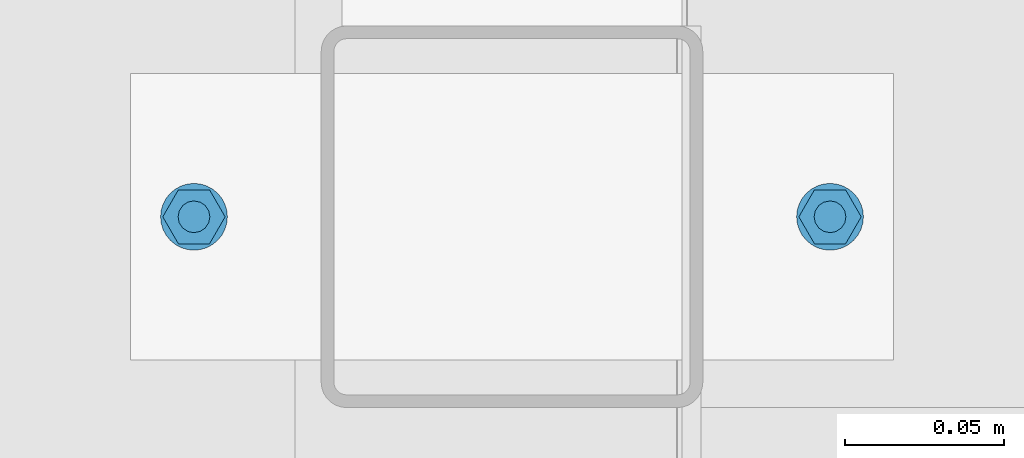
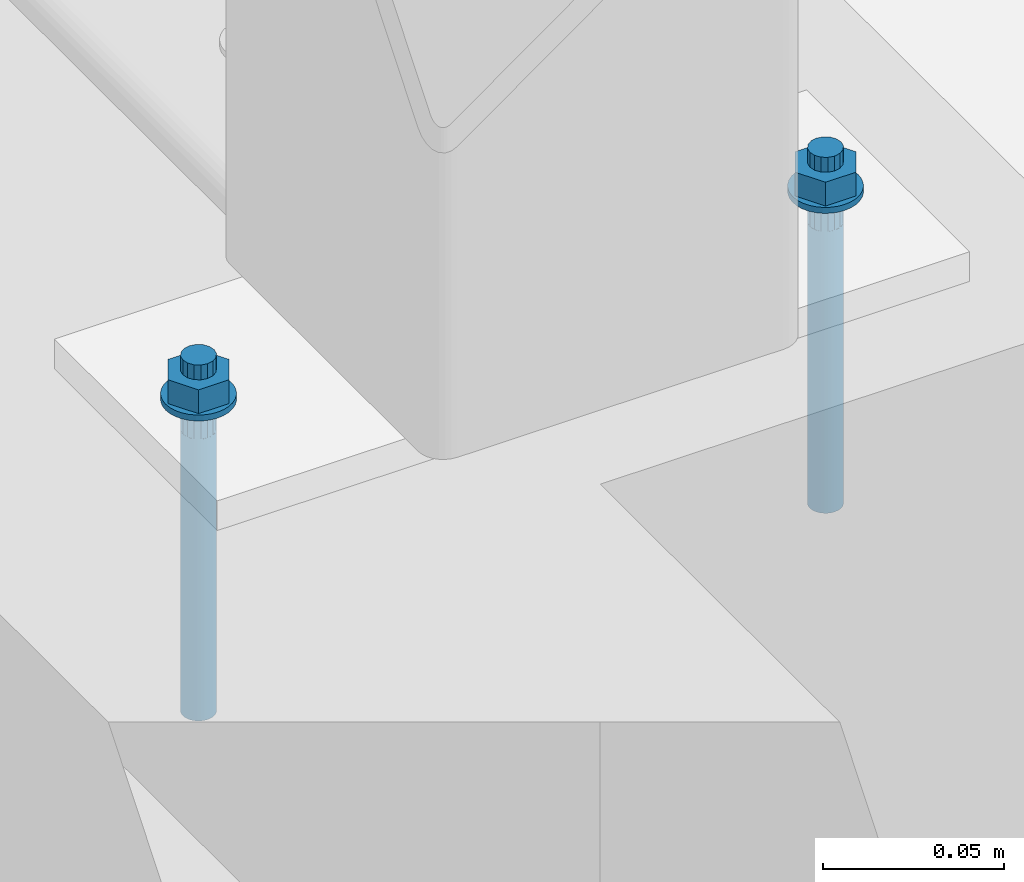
# One storey, part 255 of 476: 1 mechanical fastener.
"""IFC2X3 building model written with IfcOpenShell, lengths in millimetres."""

from ifc_helpers import new_model, entity, si_unit, converted_unit, origin_with_axes, place, context, project, spatial, faceted_brep, element, save


model = new_model("IFC2X3")

# Units and contexts
model_context = context("Model", 3, precision=1e-09, world=origin_with_axes())
ifc_project = project(units=[si_unit("LENGTHUNIT", "METRE", prefix="MILLI"), si_unit("AREAUNIT", "SQUARE_METRE"), si_unit("VOLUMEUNIT", "CUBIC_METRE"), converted_unit("PLANEANGLEUNIT", "DEGREE", entity("IfcPlaneAngleMeasure", 0.01745329), si_unit("PLANEANGLEUNIT", "RADIAN"), dimensions=[0, 0, 0, 0, 0, 0, 0])], contexts=[model_context])

# Site, building, storey
site_placement = place(None, origin_with_axes())
site = spatial("IfcSite", under=ifc_project, at=site_placement, Name="mKR Teilneubau & Sanierung BA1 - Ostfildern", CompositionType="ELEMENT")
building_placement = place(site_placement, origin_with_axes())
building = spatial("IfcBuilding", under=site, at=building_placement, Name="Struktur 1", CompositionType="ELEMENT")
storey_placement = place(building_placement, origin_with_axes())
storey = spatial("IfcBuildingStorey", under=building, at=storey_placement, Name="Default Storey", CompositionType="ELEMENT", Elevation=0.0)

# Mechanical fastener
mechanical_fastener_placement = place(None, origin_with_axes())
element("IfcMechanicalFastener", 1, at=mechanical_fastener_placement, inside=storey, ObjectType="Anchor_Bolt#1", NominalDiameter=10.0, NominalLength=120.0, context=model_context, shape_type="Brep", body=[
    faceted_brep([(22072.108734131, -148.602759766, 527.0), (22072.108734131, -148.602759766, 525.0), (22070.06028575, -148.804514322, 525.0), (22070.06028575, -148.804514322, 527.0), (22068.090558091, -149.402024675, 525.0), (22068.090558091, -149.402024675, 527.0), (22066.275246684, -150.372328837, 525.0), (22066.275246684, -150.372328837, 527.0), (22064.684112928, -151.678138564, 525.0), (22064.684112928, -151.678138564, 527.0), (22063.378303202, -153.269272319, 525.0), (22063.378303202, -153.269272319, 527.0), (22062.407999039, -155.084583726, 525.0), (22062.407999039, -155.084583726, 527.0), (22061.810488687, -157.054311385, 525.0), (22061.810488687, -157.054311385, 527.0), (22061.608734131, -159.102759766, 525.0), (22061.608734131, -159.102759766, 527.0), (22061.810488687, -161.151208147, 525.0), (22061.810488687, -161.151208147, 527.0), (22062.407999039, -163.120935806, 525.0), (22062.407999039, -163.120935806, 527.0), (22063.378303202, -164.936247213, 525.0), (22063.378303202, -164.936247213, 527.0), (22064.684112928, -166.527380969, 525.0), (22064.684112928, -166.527380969, 527.0), (22066.275246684, -167.833190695, 525.0), (22066.275246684, -167.833190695, 527.0), (22068.090558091, -168.803494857, 525.0), (22068.090558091, -168.803494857, 527.0), (22070.06028575, -169.40100521, 525.0), (22070.06028575, -169.40100521, 527.0), (22072.108734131, -169.602759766, 525.0), (22072.108734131, -169.602759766, 527.0), (22074.157182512, -169.40100521, 525.0), (22074.157182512, -169.40100521, 527.0), (22076.126910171, -168.803494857, 525.0), (22076.126910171, -168.803494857, 527.0), (22077.942221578, -167.833190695, 525.0), (22077.942221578, -167.833190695, 527.0), (22079.533355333, -166.527380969, 525.0), (22079.533355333, -166.527380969, 527.0), (22080.83916506, -164.936247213, 525.0), (22080.83916506, -164.936247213, 527.0), (22081.809469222, -163.120935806, 525.0), (22081.809469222, -163.120935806, 527.0), (22082.406979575, -161.151208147, 525.0), (22082.406979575, -161.151208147, 527.0), (22082.608734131, -159.102759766, 525.0), (22082.608734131, -159.102759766, 527.0), (22082.406979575, -157.054311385, 525.0), (22082.406979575, -157.054311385, 527.0), (22081.809469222, -155.084583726, 525.0), (22081.809469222, -155.084583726, 527.0), (22080.83916506, -153.269272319, 525.0), (22080.83916506, -153.269272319, 527.0), (22079.533355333, -151.678138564, 525.0), (22079.533355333, -151.678138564, 527.0), (22077.942221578, -150.372328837, 525.0), (22077.942221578, -150.372328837, 527.0), (22076.126910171, -149.402024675, 525.0), (22076.126910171, -149.402024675, 527.0), (22074.157182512, -148.804514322, 525.0), (22074.157182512, -148.804514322, 527.0)], [[[0, 1, 2, 3]], [[3, 2, 4, 5]], [[5, 4, 6, 7]], [[7, 6, 8, 9]], [[9, 8, 10, 11]], [[11, 10, 12, 13]], [[13, 12, 14, 15]], [[15, 14, 16, 17]], [[17, 16, 18, 19]], [[19, 18, 20, 21]], [[21, 20, 22, 23]], [[23, 22, 24, 25]], [[25, 24, 26, 27]], [[27, 26, 28, 29]], [[29, 28, 30, 31]], [[31, 30, 32, 33]], [[33, 32, 34, 35]], [[35, 34, 36, 37]], [[37, 36, 38, 39]], [[39, 38, 40, 41]], [[41, 40, 42, 43]], [[43, 42, 44, 45]], [[45, 44, 46, 47]], [[47, 46, 48, 49]], [[49, 48, 50, 51]], [[51, 50, 52, 53]], [[53, 52, 54, 55]], [[55, 54, 56, 57]], [[57, 56, 58, 59]], [[59, 58, 60, 61]], [[61, 60, 62, 63]], [[63, 62, 1, 0]], [[0, 3, 5, 7, 9, 11, 13, 15, 17, 19, 21, 23, 25, 27, 29, 31, 33, 35, 37, 39, 41, 43, 45, 47, 49, 51, 53, 55, 57, 59, 61, 63]], [[1, 62, 60, 58, 56, 54, 52, 50, 48, 46, 44, 42, 40, 38, 36, 34, 32, 30, 28, 26, 24, 22, 20, 18, 16, 14, 12, 10, 8, 6, 4, 2]]]),
    faceted_brep([(21872.108734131, -148.602759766, 527.0), (21872.108734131, -148.602759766, 525.0), (21870.06028575, -148.804514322, 525.0), (21870.06028575, -148.804514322, 527.0), (21868.090558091, -149.402024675, 525.0), (21868.090558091, -149.402024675, 527.0), (21866.275246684, -150.372328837, 525.0), (21866.275246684, -150.372328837, 527.0), (21864.684112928, -151.678138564, 525.0), (21864.684112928, -151.678138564, 527.0), (21863.378303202, -153.269272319, 525.0), (21863.378303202, -153.269272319, 527.0), (21862.407999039, -155.084583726, 525.0), (21862.407999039, -155.084583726, 527.0), (21861.810488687, -157.054311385, 525.0), (21861.810488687, -157.054311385, 527.0), (21861.608734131, -159.102759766, 525.0), (21861.608734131, -159.102759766, 527.0), (21861.810488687, -161.151208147, 525.0), (21861.810488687, -161.151208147, 527.0), (21862.407999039, -163.120935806, 525.0), (21862.407999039, -163.120935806, 527.0), (21863.378303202, -164.936247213, 525.0), (21863.378303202, -164.936247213, 527.0), (21864.684112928, -166.527380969, 525.0), (21864.684112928, -166.527380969, 527.0), (21866.275246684, -167.833190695, 525.0), (21866.275246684, -167.833190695, 527.0), (21868.090558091, -168.803494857, 525.0), (21868.090558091, -168.803494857, 527.0), (21870.06028575, -169.40100521, 525.0), (21870.06028575, -169.40100521, 527.0), (21872.108734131, -169.602759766, 525.0), (21872.108734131, -169.602759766, 527.0), (21874.157182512, -169.40100521, 525.0), (21874.157182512, -169.40100521, 527.0), (21876.126910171, -168.803494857, 525.0), (21876.126910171, -168.803494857, 527.0), (21877.942221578, -167.833190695, 525.0), (21877.942221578, -167.833190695, 527.0), (21879.533355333, -166.527380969, 525.0), (21879.533355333, -166.527380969, 527.0), (21880.83916506, -164.936247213, 525.0), (21880.83916506, -164.936247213, 527.0), (21881.809469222, -163.120935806, 525.0), (21881.809469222, -163.120935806, 527.0), (21882.406979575, -161.151208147, 525.0), (21882.406979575, -161.151208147, 527.0), (21882.608734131, -159.102759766, 525.0), (21882.608734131, -159.102759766, 527.0), (21882.406979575, -157.054311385, 525.0), (21882.406979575, -157.054311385, 527.0), (21881.809469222, -155.084583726, 525.0), (21881.809469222, -155.084583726, 527.0), (21880.83916506, -153.269272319, 525.0), (21880.83916506, -153.269272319, 527.0), (21879.533355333, -151.678138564, 525.0), (21879.533355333, -151.678138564, 527.0), (21877.942221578, -150.372328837, 525.0), (21877.942221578, -150.372328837, 527.0), (21876.126910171, -149.402024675, 525.0), (21876.126910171, -149.402024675, 527.0), (21874.157182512, -148.804514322, 525.0), (21874.157182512, -148.804514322, 527.0)], [[[0, 1, 2, 3]], [[3, 2, 4, 5]], [[5, 4, 6, 7]], [[7, 6, 8, 9]], [[9, 8, 10, 11]], [[11, 10, 12, 13]], [[13, 12, 14, 15]], [[15, 14, 16, 17]], [[17, 16, 18, 19]], [[19, 18, 20, 21]], [[21, 20, 22, 23]], [[23, 22, 24, 25]], [[25, 24, 26, 27]], [[27, 26, 28, 29]], [[29, 28, 30, 31]], [[31, 30, 32, 33]], [[33, 32, 34, 35]], [[35, 34, 36, 37]], [[37, 36, 38, 39]], [[39, 38, 40, 41]], [[41, 40, 42, 43]], [[43, 42, 44, 45]], [[45, 44, 46, 47]], [[47, 46, 48, 49]], [[49, 48, 50, 51]], [[51, 50, 52, 53]], [[53, 52, 54, 55]], [[55, 54, 56, 57]], [[57, 56, 58, 59]], [[59, 58, 60, 61]], [[61, 60, 62, 63]], [[63, 62, 1, 0]], [[0, 3, 5, 7, 9, 11, 13, 15, 17, 19, 21, 23, 25, 27, 29, 31, 33, 35, 37, 39, 41, 43, 45, 47, 49, 51, 53, 55, 57, 59, 61, 63]], [[1, 62, 60, 58, 56, 54, 52, 50, 48, 46, 44, 42, 40, 38, 36, 34, 32, 30, 28, 26, 24, 22, 20, 18, 16, 14, 12, 10, 8, 6, 4, 2]]]),
    faceted_brep([(22067.208734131, -167.589808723, 527.0), (22067.208734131, -167.589808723, 535.0), (22062.308734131, -159.102759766, 535.0), (22062.308734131, -159.102759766, 527.0), (22067.208734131, -150.615710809, 535.0), (22067.208734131, -150.615710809, 527.0), (22077.008734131, -150.615710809, 535.0), (22077.008734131, -150.615710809, 527.0), (22081.908734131, -159.102759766, 535.0), (22081.908734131, -159.102759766, 527.0), (22077.008734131, -167.589808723, 535.0), (22077.008734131, -167.589808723, 527.0)], [[[0, 1, 2, 3]], [[3, 2, 4, 5]], [[5, 4, 6, 7]], [[7, 6, 8, 9]], [[9, 8, 10, 11]], [[11, 10, 1, 0]], [[4, 2, 1, 10, 8, 6]], [[0, 3, 5, 7, 9, 11]]]),
    faceted_brep([(21867.208734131, -167.589808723, 527.0), (21867.208734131, -167.589808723, 535.0), (21862.308734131, -159.102759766, 535.0), (21862.308734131, -159.102759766, 527.0), (21867.208734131, -150.615710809, 535.0), (21867.208734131, -150.615710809, 527.0), (21877.008734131, -150.615710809, 535.0), (21877.008734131, -150.615710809, 527.0), (21881.908734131, -159.102759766, 535.0), (21881.908734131, -159.102759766, 527.0), (21877.008734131, -167.589808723, 535.0), (21877.008734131, -167.589808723, 527.0)], [[[0, 1, 2, 3]], [[3, 2, 4, 5]], [[5, 4, 6, 7]], [[7, 6, 8, 9]], [[9, 8, 10, 11]], [[11, 10, 1, 0]], [[4, 2, 1, 10, 8, 6]], [[0, 3, 5, 7, 9, 11]]]),
    faceted_brep([(22072.108734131, -154.102759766, 540.0), (22072.108734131, -154.102759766, 535.0), (22070.195316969, -154.483362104, 535.0), (22070.195316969, -154.483362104, 540.0), (22068.573200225, -155.56722586, 535.0), (22068.573200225, -155.56722586, 540.0), (22067.489336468, -157.189342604, 535.0), (22067.489336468, -157.189342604, 540.0), (22067.108734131, -159.102759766, 535.0), (22067.108734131, -159.102759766, 540.0), (22067.489336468, -161.016176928, 535.0), (22067.489336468, -161.016176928, 540.0), (22068.573200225, -162.638293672, 535.0), (22068.573200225, -162.638293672, 540.0), (22070.195316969, -163.722157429, 535.0), (22070.195316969, -163.722157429, 540.0), (22072.108734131, -164.102759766, 535.0), (22072.108734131, -164.102759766, 540.0), (22074.022151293, -163.722157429, 535.0), (22074.022151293, -163.722157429, 540.0), (22075.644268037, -162.638293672, 535.0), (22075.644268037, -162.638293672, 540.0), (22076.728131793, -161.016176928, 535.0), (22076.728131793, -161.016176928, 540.0), (22077.108734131, -159.102759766, 535.0), (22077.108734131, -159.102759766, 540.0), (22076.728131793, -157.189342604, 535.0), (22076.728131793, -157.189342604, 540.0), (22075.644268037, -155.56722586, 535.0), (22075.644268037, -155.56722586, 540.0), (22074.022151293, -154.483362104, 535.0), (22074.022151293, -154.483362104, 540.0)], [[[0, 1, 2, 3]], [[3, 2, 4, 5]], [[5, 4, 6, 7]], [[7, 6, 8, 9]], [[9, 8, 10, 11]], [[11, 10, 12, 13]], [[13, 12, 14, 15]], [[15, 14, 16, 17]], [[17, 16, 18, 19]], [[19, 18, 20, 21]], [[21, 20, 22, 23]], [[23, 22, 24, 25]], [[25, 24, 26, 27]], [[27, 26, 28, 29]], [[29, 28, 30, 31]], [[31, 30, 1, 0]], [[0, 3, 5, 7, 9, 11, 13, 15, 17, 19, 21, 23, 25, 27, 29, 31]], [[1, 30, 28, 26, 24, 22, 20, 18, 16, 14, 12, 10, 8, 6, 4, 2]]]),
    faceted_brep([(21872.108734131, -154.102759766, 540.0), (21872.108734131, -154.102759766, 535.0), (21870.195316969, -154.483362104, 535.0), (21870.195316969, -154.483362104, 540.0), (21868.573200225, -155.56722586, 535.0), (21868.573200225, -155.56722586, 540.0), (21867.489336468, -157.189342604, 535.0), (21867.489336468, -157.189342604, 540.0), (21867.108734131, -159.102759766, 535.0), (21867.108734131, -159.102759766, 540.0), (21867.489336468, -161.016176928, 535.0), (21867.489336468, -161.016176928, 540.0), (21868.573200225, -162.638293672, 535.0), (21868.573200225, -162.638293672, 540.0), (21870.195316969, -163.722157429, 535.0), (21870.195316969, -163.722157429, 540.0), (21872.108734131, -164.102759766, 535.0), (21872.108734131, -164.102759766, 540.0), (21874.022151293, -163.722157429, 535.0), (21874.022151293, -163.722157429, 540.0), (21875.644268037, -162.638293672, 535.0), (21875.644268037, -162.638293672, 540.0), (21876.728131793, -161.016176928, 535.0), (21876.728131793, -161.016176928, 540.0), (21877.108734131, -159.102759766, 535.0), (21877.108734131, -159.102759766, 540.0), (21876.728131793, -157.189342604, 535.0), (21876.728131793, -157.189342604, 540.0), (21875.644268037, -155.56722586, 535.0), (21875.644268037, -155.56722586, 540.0), (21874.022151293, -154.483362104, 535.0), (21874.022151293, -154.483362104, 540.0)], [[[0, 1, 2, 3]], [[3, 2, 4, 5]], [[5, 4, 6, 7]], [[7, 6, 8, 9]], [[9, 8, 10, 11]], [[11, 10, 12, 13]], [[13, 12, 14, 15]], [[15, 14, 16, 17]], [[17, 16, 18, 19]], [[19, 18, 20, 21]], [[21, 20, 22, 23]], [[23, 22, 24, 25]], [[25, 24, 26, 27]], [[27, 26, 28, 29]], [[29, 28, 30, 31]], [[31, 30, 1, 0]], [[0, 3, 5, 7, 9, 11, 13, 15, 17, 19, 21, 23, 25, 27, 29, 31]], [[1, 30, 28, 26, 24, 22, 20, 18, 16, 14, 12, 10, 8, 6, 4, 2]]]),
    faceted_brep([(22072.108734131, -154.102759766, 525.0), (22072.108734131, -154.102759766, 515.0), (22070.195316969, -154.483362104, 515.0), (22070.195316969, -154.483362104, 525.0), (22068.573200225, -155.56722586, 515.0), (22068.573200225, -155.56722586, 525.0), (22067.489336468, -157.189342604, 515.0), (22067.489336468, -157.189342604, 525.0), (22067.108734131, -159.102759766, 515.0), (22067.108734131, -159.102759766, 525.0), (22067.489336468, -161.016176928, 515.0), (22067.489336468, -161.016176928, 525.0), (22068.573200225, -162.638293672, 515.0), (22068.573200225, -162.638293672, 525.0), (22070.195316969, -163.722157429, 515.0), (22070.195316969, -163.722157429, 525.0), (22072.108734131, -164.102759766, 515.0), (22072.108734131, -164.102759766, 525.0), (22074.022151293, -163.722157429, 515.0), (22074.022151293, -163.722157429, 525.0), (22075.644268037, -162.638293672, 515.0), (22075.644268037, -162.638293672, 525.0), (22076.728131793, -161.016176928, 515.0), (22076.728131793, -161.016176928, 525.0), (22077.108734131, -159.102759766, 515.0), (22077.108734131, -159.102759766, 525.0), (22076.728131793, -157.189342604, 515.0), (22076.728131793, -157.189342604, 525.0), (22075.644268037, -155.56722586, 515.0), (22075.644268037, -155.56722586, 525.0), (22074.022151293, -154.483362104, 515.0), (22074.022151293, -154.483362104, 525.0)], [[[0, 1, 2, 3]], [[3, 2, 4, 5]], [[5, 4, 6, 7]], [[7, 6, 8, 9]], [[9, 8, 10, 11]], [[11, 10, 12, 13]], [[13, 12, 14, 15]], [[15, 14, 16, 17]], [[17, 16, 18, 19]], [[19, 18, 20, 21]], [[21, 20, 22, 23]], [[23, 22, 24, 25]], [[25, 24, 26, 27]], [[27, 26, 28, 29]], [[29, 28, 30, 31]], [[31, 30, 1, 0]], [[0, 3, 5, 7, 9, 11, 13, 15, 17, 19, 21, 23, 25, 27, 29, 31]], [[1, 30, 28, 26, 24, 22, 20, 18, 16, 14, 12, 10, 8, 6, 4, 2]]]),
    faceted_brep([(21872.108734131, -154.102759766, 525.0), (21872.108734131, -154.102759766, 515.0), (21870.195316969, -154.483362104, 515.0), (21870.195316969, -154.483362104, 525.0), (21868.573200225, -155.56722586, 515.0), (21868.573200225, -155.56722586, 525.0), (21867.489336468, -157.189342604, 515.0), (21867.489336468, -157.189342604, 525.0), (21867.108734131, -159.102759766, 515.0), (21867.108734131, -159.102759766, 525.0), (21867.489336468, -161.016176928, 515.0), (21867.489336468, -161.016176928, 525.0), (21868.573200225, -162.638293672, 515.0), (21868.573200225, -162.638293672, 525.0), (21870.195316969, -163.722157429, 515.0), (21870.195316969, -163.722157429, 525.0), (21872.108734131, -164.102759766, 515.0), (21872.108734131, -164.102759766, 525.0), (21874.022151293, -163.722157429, 515.0), (21874.022151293, -163.722157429, 525.0), (21875.644268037, -162.638293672, 515.0), (21875.644268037, -162.638293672, 525.0), (21876.728131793, -161.016176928, 515.0), (21876.728131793, -161.016176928, 525.0), (21877.108734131, -159.102759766, 515.0), (21877.108734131, -159.102759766, 525.0), (21876.728131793, -157.189342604, 515.0), (21876.728131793, -157.189342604, 525.0), (21875.644268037, -155.56722586, 515.0), (21875.644268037, -155.56722586, 525.0), (21874.022151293, -154.483362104, 515.0), (21874.022151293, -154.483362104, 525.0)], [[[0, 1, 2, 3]], [[3, 2, 4, 5]], [[5, 4, 6, 7]], [[7, 6, 8, 9]], [[9, 8, 10, 11]], [[11, 10, 12, 13]], [[13, 12, 14, 15]], [[15, 14, 16, 17]], [[17, 16, 18, 19]], [[19, 18, 20, 21]], [[21, 20, 22, 23]], [[23, 22, 24, 25]], [[25, 24, 26, 27]], [[27, 26, 28, 29]], [[29, 28, 30, 31]], [[31, 30, 1, 0]], [[0, 3, 5, 7, 9, 11, 13, 15, 17, 19, 21, 23, 25, 27, 29, 31]], [[1, 30, 28, 26, 24, 22, 20, 18, 16, 14, 12, 10, 8, 6, 4, 2]]]),
    faceted_brep([(22072.108734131, -154.102759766, 515.0), (22072.108734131, -154.102759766, 420.0), (22071.133282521, -154.198833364, 420.0), (22071.133282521, -154.198833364, 515.0), (22070.195316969, -154.483362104, 420.0), (22070.195316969, -154.483362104, 515.0), (22069.330882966, -154.945411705, 420.0), (22069.330882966, -154.945411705, 515.0), (22068.573200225, -155.56722586, 420.0), (22068.573200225, -155.56722586, 515.0), (22067.951386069, -156.324908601, 420.0), (22067.951386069, -156.324908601, 515.0), (22067.489336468, -157.189342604, 420.0), (22067.489336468, -157.189342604, 515.0), (22067.204807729, -158.127308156, 420.0), (22067.204807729, -158.127308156, 515.0), (22067.108734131, -159.102759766, 420.0), (22067.108734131, -159.102759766, 515.0), (22067.204807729, -160.078211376, 420.0), (22067.204807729, -160.078211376, 515.0), (22067.489336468, -161.016176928, 420.0), (22067.489336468, -161.016176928, 515.0), (22067.951386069, -161.880610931, 420.0), (22067.951386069, -161.880610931, 515.0), (22068.573200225, -162.638293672, 420.0), (22068.573200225, -162.638293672, 515.0), (22069.330882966, -163.260107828, 420.0), (22069.330882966, -163.260107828, 515.0), (22070.195316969, -163.722157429, 420.0), (22070.195316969, -163.722157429, 515.0), (22071.133282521, -164.006686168, 420.0), (22071.133282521, -164.006686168, 515.0), (22072.108734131, -164.102759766, 420.0), (22072.108734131, -164.102759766, 515.0), (22073.084185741, -164.006686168, 420.0), (22073.084185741, -164.006686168, 515.0), (22074.022151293, -163.722157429, 420.0), (22074.022151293, -163.722157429, 515.0), (22074.886585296, -163.260107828, 420.0), (22074.886585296, -163.260107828, 515.0), (22075.644268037, -162.638293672, 420.0), (22075.644268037, -162.638293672, 515.0), (22076.266082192, -161.880610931, 420.0), (22076.266082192, -161.880610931, 515.0), (22076.728131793, -161.016176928, 420.0), (22076.728131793, -161.016176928, 515.0), (22077.012660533, -160.078211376, 420.0), (22077.012660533, -160.078211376, 515.0), (22077.108734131, -159.102759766, 420.0), (22077.108734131, -159.102759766, 515.0), (22077.012660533, -158.127308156, 420.0), (22077.012660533, -158.127308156, 515.0), (22076.728131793, -157.189342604, 420.0), (22076.728131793, -157.189342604, 515.0), (22076.266082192, -156.324908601, 420.0), (22076.266082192, -156.324908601, 515.0), (22075.644268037, -155.56722586, 420.0), (22075.644268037, -155.56722586, 515.0), (22074.886585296, -154.945411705, 420.0), (22074.886585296, -154.945411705, 515.0), (22074.022151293, -154.483362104, 420.0), (22074.022151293, -154.483362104, 515.0), (22073.084185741, -154.198833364, 420.0), (22073.084185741, -154.198833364, 515.0)], [[[0, 1, 2, 3]], [[3, 2, 4, 5]], [[5, 4, 6, 7]], [[7, 6, 8, 9]], [[9, 8, 10, 11]], [[11, 10, 12, 13]], [[13, 12, 14, 15]], [[15, 14, 16, 17]], [[17, 16, 18, 19]], [[19, 18, 20, 21]], [[21, 20, 22, 23]], [[23, 22, 24, 25]], [[25, 24, 26, 27]], [[27, 26, 28, 29]], [[29, 28, 30, 31]], [[31, 30, 32, 33]], [[33, 32, 34, 35]], [[35, 34, 36, 37]], [[37, 36, 38, 39]], [[39, 38, 40, 41]], [[41, 40, 42, 43]], [[43, 42, 44, 45]], [[45, 44, 46, 47]], [[47, 46, 48, 49]], [[49, 48, 50, 51]], [[51, 50, 52, 53]], [[53, 52, 54, 55]], [[55, 54, 56, 57]], [[57, 56, 58, 59]], [[59, 58, 60, 61]], [[61, 60, 62, 63]], [[63, 62, 1, 0]], [[0, 3, 5, 7, 9, 11, 13, 15, 17, 19, 21, 23, 25, 27, 29, 31, 33, 35, 37, 39, 41, 43, 45, 47, 49, 51, 53, 55, 57, 59, 61, 63]], [[1, 62, 60, 58, 56, 54, 52, 50, 48, 46, 44, 42, 40, 38, 36, 34, 32, 30, 28, 26, 24, 22, 20, 18, 16, 14, 12, 10, 8, 6, 4, 2]]]),
    faceted_brep([(21872.108734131, -154.102759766, 515.0), (21872.108734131, -154.102759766, 420.0), (21871.133282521, -154.198833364, 420.0), (21871.133282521, -154.198833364, 515.0), (21870.195316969, -154.483362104, 420.0), (21870.195316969, -154.483362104, 515.0), (21869.330882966, -154.945411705, 420.0), (21869.330882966, -154.945411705, 515.0), (21868.573200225, -155.56722586, 420.0), (21868.573200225, -155.56722586, 515.0), (21867.951386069, -156.324908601, 420.0), (21867.951386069, -156.324908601, 515.0), (21867.489336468, -157.189342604, 420.0), (21867.489336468, -157.189342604, 515.0), (21867.204807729, -158.127308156, 420.0), (21867.204807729, -158.127308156, 515.0), (21867.108734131, -159.102759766, 420.0), (21867.108734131, -159.102759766, 515.0), (21867.204807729, -160.078211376, 420.0), (21867.204807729, -160.078211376, 515.0), (21867.489336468, -161.016176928, 420.0), (21867.489336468, -161.016176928, 515.0), (21867.951386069, -161.880610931, 420.0), (21867.951386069, -161.880610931, 515.0), (21868.573200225, -162.638293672, 420.0), (21868.573200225, -162.638293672, 515.0), (21869.330882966, -163.260107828, 420.0), (21869.330882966, -163.260107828, 515.0), (21870.195316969, -163.722157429, 420.0), (21870.195316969, -163.722157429, 515.0), (21871.133282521, -164.006686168, 420.0), (21871.133282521, -164.006686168, 515.0), (21872.108734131, -164.102759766, 420.0), (21872.108734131, -164.102759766, 515.0), (21873.084185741, -164.006686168, 420.0), (21873.084185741, -164.006686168, 515.0), (21874.022151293, -163.722157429, 420.0), (21874.022151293, -163.722157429, 515.0), (21874.886585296, -163.260107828, 420.0), (21874.886585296, -163.260107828, 515.0), (21875.644268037, -162.638293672, 420.0), (21875.644268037, -162.638293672, 515.0), (21876.266082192, -161.880610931, 420.0), (21876.266082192, -161.880610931, 515.0), (21876.728131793, -161.016176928, 420.0), (21876.728131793, -161.016176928, 515.0), (21877.012660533, -160.078211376, 420.0), (21877.012660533, -160.078211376, 515.0), (21877.108734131, -159.102759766, 420.0), (21877.108734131, -159.102759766, 515.0), (21877.012660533, -158.127308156, 420.0), (21877.012660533, -158.127308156, 515.0), (21876.728131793, -157.189342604, 420.0), (21876.728131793, -157.189342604, 515.0), (21876.266082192, -156.324908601, 420.0), (21876.266082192, -156.324908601, 515.0), (21875.644268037, -155.56722586, 420.0), (21875.644268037, -155.56722586, 515.0), (21874.886585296, -154.945411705, 420.0), (21874.886585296, -154.945411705, 515.0), (21874.022151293, -154.483362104, 420.0), (21874.022151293, -154.483362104, 515.0), (21873.084185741, -154.198833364, 420.0), (21873.084185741, -154.198833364, 515.0)], [[[0, 1, 2, 3]], [[3, 2, 4, 5]], [[5, 4, 6, 7]], [[7, 6, 8, 9]], [[9, 8, 10, 11]], [[11, 10, 12, 13]], [[13, 12, 14, 15]], [[15, 14, 16, 17]], [[17, 16, 18, 19]], [[19, 18, 20, 21]], [[21, 20, 22, 23]], [[23, 22, 24, 25]], [[25, 24, 26, 27]], [[27, 26, 28, 29]], [[29, 28, 30, 31]], [[31, 30, 32, 33]], [[33, 32, 34, 35]], [[35, 34, 36, 37]], [[37, 36, 38, 39]], [[39, 38, 40, 41]], [[41, 40, 42, 43]], [[43, 42, 44, 45]], [[45, 44, 46, 47]], [[47, 46, 48, 49]], [[49, 48, 50, 51]], [[51, 50, 52, 53]], [[53, 52, 54, 55]], [[55, 54, 56, 57]], [[57, 56, 58, 59]], [[59, 58, 60, 61]], [[61, 60, 62, 63]], [[63, 62, 1, 0]], [[0, 3, 5, 7, 9, 11, 13, 15, 17, 19, 21, 23, 25, 27, 29, 31, 33, 35, 37, 39, 41, 43, 45, 47, 49, 51, 53, 55, 57, 59, 61, 63]], [[1, 62, 60, 58, 56, 54, 52, 50, 48, 46, 44, 42, 40, 38, 36, 34, 32, 30, 28, 26, 24, 22, 20, 18, 16, 14, 12, 10, 8, 6, 4, 2]]]),
])

save(model, "model.ifc")
